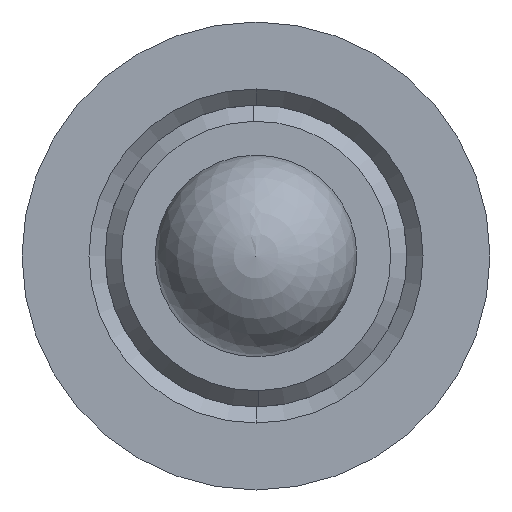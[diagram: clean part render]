
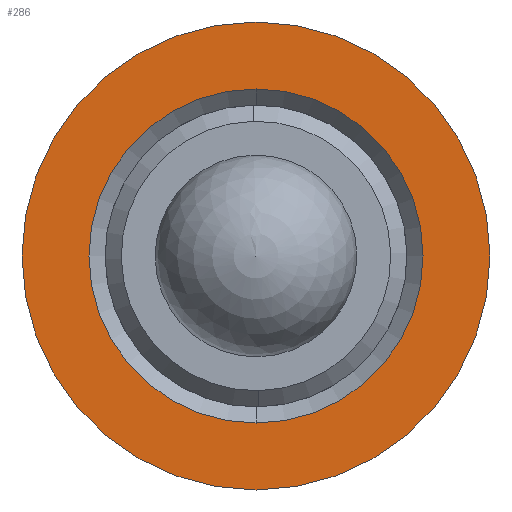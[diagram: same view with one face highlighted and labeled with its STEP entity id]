
A CAD part, left-side view. The second image highlights one B-rep face of the part: STEP entity #286.
In plain terms, the highlighted planar face has unit normal (-1, 0, 0).
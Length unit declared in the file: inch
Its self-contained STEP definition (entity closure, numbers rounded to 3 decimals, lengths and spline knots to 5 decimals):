
#37 = CIRCLE ( 'NONE', #223, 0.1035 ) ;
#75 = FACE_OUTER_BOUND ( 'NONE', #826, .T. ) ;
#119 = DIRECTION ( 'NONE',  ( -1., 0., 0. ) ) ;
#147 = ORIENTED_EDGE ( 'NONE', *, *, #323, .T. ) ;
#168 = EDGE_CURVE ( 'NONE', #339, #269, #37, .T. ) ;
#211 = DIRECTION ( 'NONE',  ( 0., 0., 1. ) ) ;
#223 = AXIS2_PLACEMENT_3D ( 'NONE', #1344, #1343, #1333 ) ;
#266 = CIRCLE ( 'NONE', #1573, 0.145 ) ;
#269 = VERTEX_POINT ( 'NONE', #1399 ) ;
#286 = ADVANCED_FACE ( 'NONE', ( #1309, #75 ), #1175, .F. ) ;
#317 = CARTESIAN_POINT ( 'NONE',  ( -0.0789, 0.33516, 0.47347 ) ) ;
#320 = CARTESIAN_POINT ( 'NONE',  ( -0.0789, 0.33516, 0.47347 ) ) ;
#323 = EDGE_CURVE ( 'NONE', #269, #339, #927, .T. ) ;
#332 = ORIENTED_EDGE ( 'NONE', *, *, #333, .T. ) ;
#333 = EDGE_CURVE ( 'NONE', #1480, #1510, #266, .T. ) ;
#339 = VERTEX_POINT ( 'NONE', #701 ) ;
#366 = DIRECTION ( 'NONE',  ( 0., 0., -1. ) ) ;
#460 = DIRECTION ( 'NONE',  ( 1., 0., 0. ) ) ;
#701 = CARTESIAN_POINT ( 'NONE',  ( -0.0789, 0.33516, 0.57697 ) ) ;
#715 = CIRCLE ( 'NONE', #1520, 0.145 ) ;
#815 = AXIS2_PLACEMENT_3D ( 'NONE', #317, #460, #366 ) ;
#826 = EDGE_LOOP ( 'NONE', ( #1337, #332 ) ) ;
#927 = CIRCLE ( 'NONE', #1152, 0.1035 ) ;
#957 = EDGE_LOOP ( 'NONE', ( #1468, #147 ) ) ;
#963 = DIRECTION ( 'NONE',  ( 0., 0., -1. ) ) ;
#1080 = CARTESIAN_POINT ( 'NONE',  ( -0.0789, 0.33516, 0.61847 ) ) ;
#1152 = AXIS2_PLACEMENT_3D ( 'NONE', #320, #1209, #963 ) ;
#1157 = CARTESIAN_POINT ( 'NONE',  ( -0.0789, 0.33516, 0.32847 ) ) ;
#1175 = PLANE ( 'NONE',  #815 ) ;
#1209 = DIRECTION ( 'NONE',  ( 1., 0., 0. ) ) ;
#1309 = FACE_BOUND ( 'NONE', #957, .T. ) ;
#1327 = CARTESIAN_POINT ( 'NONE',  ( -0.0789, 0.33516, 0.47347 ) ) ;
#1333 = DIRECTION ( 'NONE',  ( 0., 0., -1. ) ) ;
#1337 = ORIENTED_EDGE ( 'NONE', *, *, #1409, .T. ) ;
#1343 = DIRECTION ( 'NONE',  ( 1., 0., 0. ) ) ;
#1344 = CARTESIAN_POINT ( 'NONE',  ( -0.0789, 0.33516, 0.47347 ) ) ;
#1393 = DIRECTION ( 'NONE',  ( 0., 0., 1. ) ) ;
#1396 = DIRECTION ( 'NONE',  ( -1., 0., 0. ) ) ;
#1399 = CARTESIAN_POINT ( 'NONE',  ( -0.0789, 0.33516, 0.36997 ) ) ;
#1405 = CARTESIAN_POINT ( 'NONE',  ( -0.0789, 0.33516, 0.47347 ) ) ;
#1409 = EDGE_CURVE ( 'NONE', #1510, #1480, #715, .T. ) ;
#1468 = ORIENTED_EDGE ( 'NONE', *, *, #168, .T. ) ;
#1480 = VERTEX_POINT ( 'NONE', #1157 ) ;
#1510 = VERTEX_POINT ( 'NONE', #1080 ) ;
#1520 = AXIS2_PLACEMENT_3D ( 'NONE', #1405, #1396, #1393 ) ;
#1573 = AXIS2_PLACEMENT_3D ( 'NONE', #1327, #119, #211 ) ;
